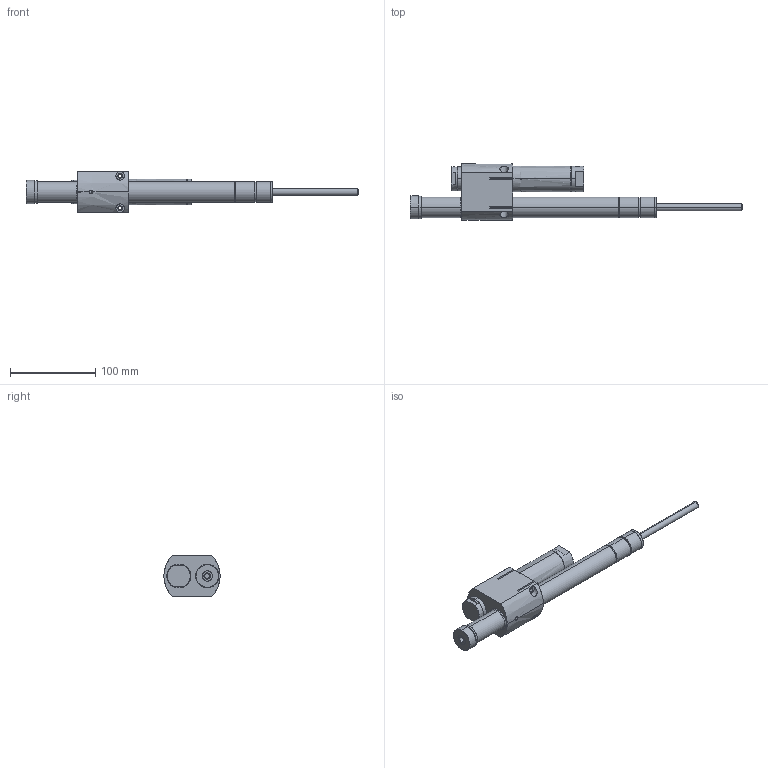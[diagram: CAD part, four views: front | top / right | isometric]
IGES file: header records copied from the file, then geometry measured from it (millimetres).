
Start section: SolidWorks IGES file using analytic representation for surfaces
Global section: file name: D:\IGS跡宒\HRT100-SH.IGS,1; native system: 5HSolidWorks 2013; preprocessor: SolidWorks 2013; author: Administrator; date: 160406.154113; units: inch
Bounding box: 389.5 x 66 x 48 mm (x, y, z)
Surface area: 61221.8 mm2 (no closed solid volume)
Topology: 0 solids, 0 shells, 158 faces, 3170 edges, 3168 vertices
Faces by surface type: revolution 106, bspline 52
